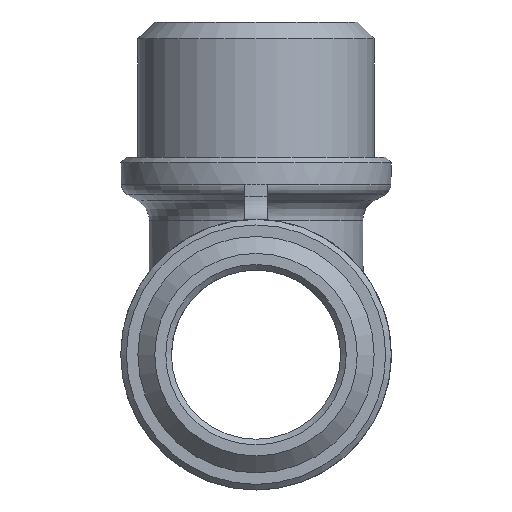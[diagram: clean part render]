
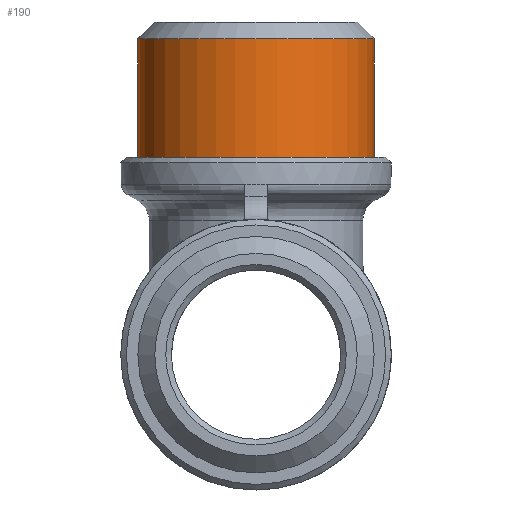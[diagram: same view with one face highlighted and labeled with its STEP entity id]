
A CAD part, front view. The second image highlights one B-rep face of the part: STEP entity #190.
In plain terms, the highlighted cylindrical face has radius 10.477 mm (diameter 20.955 mm), a full revolution.
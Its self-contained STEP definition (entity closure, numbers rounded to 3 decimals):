
#190=ADVANCED_FACE('',(#1199,#1201),#1203,.T.);
#1199=FACE_OUTER_BOUND('',#1200,.T.);
#1200=EDGE_LOOP('',(#2295));
#1201=FACE_OUTER_BOUND('',#1202,.T.);
#1202=EDGE_LOOP('',(#2296));
#1203=CYLINDRICAL_SURFACE('',#1204,10.478);
#1204=AXIS2_PLACEMENT_3D('',#1205,#1206,#1207);
#1205=CARTESIAN_POINT('',(0.,0.,16.5));
#1206=DIRECTION('',(0.,0.,1.));
#1207=DIRECTION('',(0.,1.,0.));
#2295=ORIENTED_EDGE('',*,*,#2738,.T.);
#2296=ORIENTED_EDGE('',*,*,#2735,.T.);
#2735=EDGE_CURVE('',#3415,#3415,#3416,.T.);
#2738=EDGE_CURVE('',#3421,#3421,#3422,.T.);
#3415=VERTEX_POINT('',#6577);
#3416=CIRCLE('',#6578,10.478);
#3421=VERTEX_POINT('',#6592);
#3422=CIRCLE('',#6593,10.478);
#6577=CARTESIAN_POINT('',(0.,10.478,17.5));
#6578=AXIS2_PLACEMENT_3D('',#6579,#6580,#6581);
#6579=CARTESIAN_POINT('',(0.,0.,17.5));
#6580=DIRECTION('',(0.,0.,1.));
#6581=DIRECTION('',(0.,1.,0.));
#6592=CARTESIAN_POINT('',(0.,10.478,28.));
#6593=AXIS2_PLACEMENT_3D('',#6594,#6595,#6596);
#6594=CARTESIAN_POINT('',(0.,0.,28.));
#6595=DIRECTION('',(0.,0.,-1.));
#6596=DIRECTION('',(0.,1.,0.));
